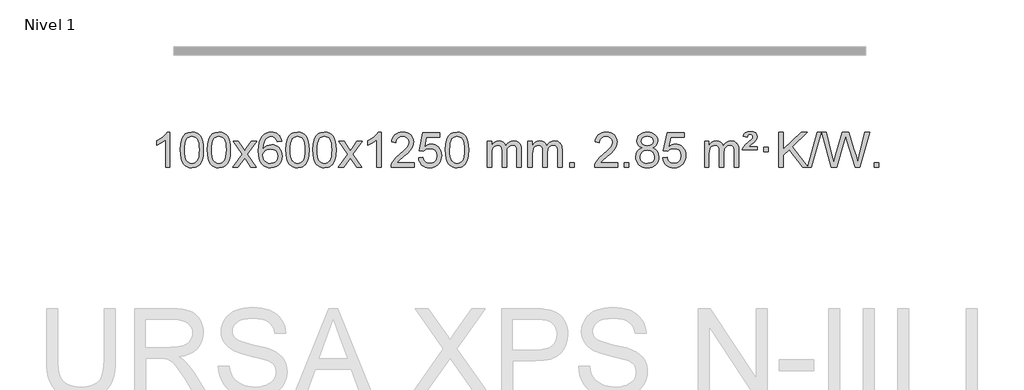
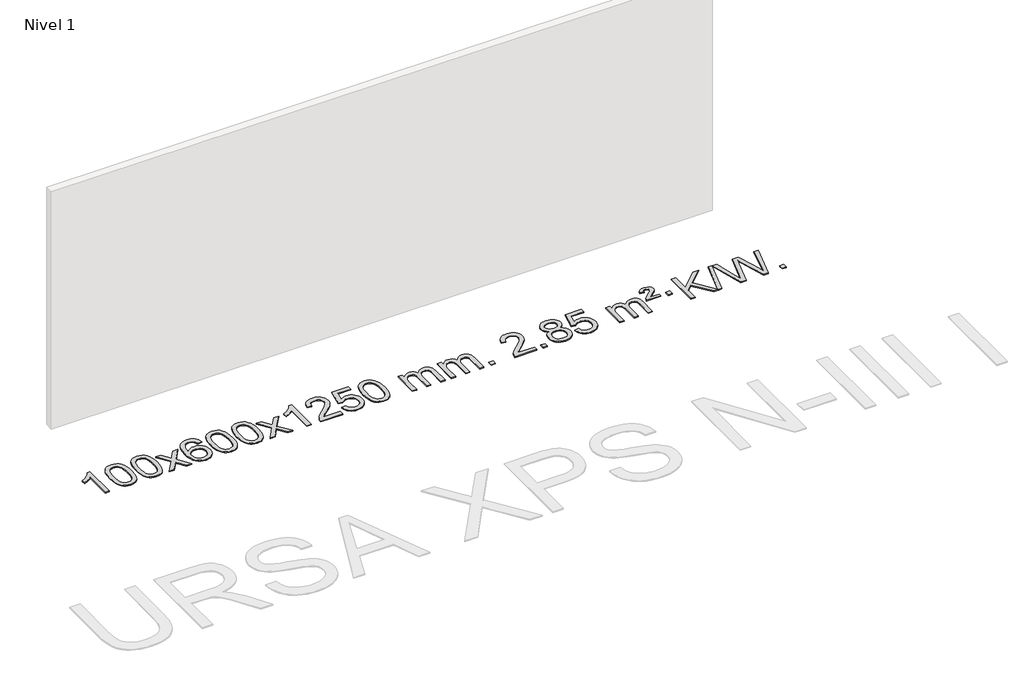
# One storey, part 2 of 6: 1 proxy.
"""IFC4 building model written with IfcOpenShell, lengths in millimetres."""

from ifc_helpers import new_model, si_unit, origin, origin_with_axes, place, context, project, spatial, polyline, outline, extrude, element, save

model = new_model("IFC4")

# Units and contexts
model_context = context("Model", 3, world=origin())
ifc_project = project(units=[si_unit("LENGTHUNIT", "METRE", prefix="MILLI")], contexts=[model_context])

# Site, building, storey
site = spatial("IfcSite", under=ifc_project)
building = spatial("IfcBuilding", under=site)
storey = spatial("IfcBuildingStorey", under=building, Name="Nivel 1", Elevation=0.0)

# Proxy
placement = place(None, origin())
element("IfcBuildingElementProxy", 1, Name="Texto de modelo 1", ObjectType="Texto de modelo 1", at=placement, inside=storey, context=model_context, shape_type="SweptSolid", body=[
    extrude(outline(polyline([(-6575.4615788, -9389.579453), (-6625.6897338, -9389.579453), (-6625.6897338, -9076.4382987), (-6646.6590076, -9093.3976587), (-6673.2691385, -9110.3324932), (-6726.146044, -9135.6918254), (-6726.146044, -9088.2105225), (-6686.6968314, -9066.7507395), (-6652.520594, -9041.219729), (-6625.5793692, -9014.0700378), (-6607.8351943, -8987.7542124), (-6575.4615788, -8987.7542124), (-6575.4615788, -9389.579453)])), origin_with_axes(), (0.0, 0.0, 1.0), 10.0),
    extrude(outline(polyline([(-6456.1697105, -9191.9041943), (-6452.4786278, -9127.5861588), (-6441.4053797, -9076.2911459), (-6423.0603309, -9037.2343407), (-6411.2022679, -9022.0009605), (-6397.5538459, -9009.6309284), (-6382.0690796, -9000.0598651), (-6364.7019837, -8993.2233914), (-6324.3208034, -8987.7542124), (-6293.3696649, -8990.991574), (-6265.6558879, -9000.7036586), (-6242.4793222, -9016.5103217), (-6225.1398175, -9038.0314184), (-6212.0432185, -9065.0830078), (-6201.5953698, -9097.4811488), (-6194.7527647, -9138.6226186), (-6192.4718963, -9191.9041943), (-6196.1261908, -9255.8543477), (-6207.0890743, -9307.0267333), (-6225.3237585, -9346.1203266), (-6237.1542303, -9361.3996922), (-6250.7934553, -9373.8341036), (-6266.2966157, -9383.4695462), (-6283.7188939, -9390.3520052), (-6324.3208034, -9395.8579724), (-6351.9855294, -9393.4667394), (-6376.5109958, -9386.2930405), (-6397.8972024, -9374.3368757), (-6416.1441494, -9357.5982449), (-6433.6553324, -9327.3399508), (-6446.1633202, -9289.6381776), (-6453.6681129, -9244.4929255), (-6456.1697105, -9191.9041943)]), holes=[polyline([(-6405.9415554, -9191.8060924), (-6404.4700274, -9235.4706195), (-6400.0554435, -9270.8148822), (-6392.6978036, -9297.8388804), (-6382.3971077, -9316.5426142), (-6369.9381708, -9329.2682656), (-6356.1058078, -9338.3580165), (-6340.9000186, -9343.8118671), (-6324.3208034, -9345.6298173), (-6307.7415881, -9343.8057357), (-6292.535799, -9338.3334911), (-6278.703436, -9329.2130833), (-6266.2444991, -9316.4445124), (-6255.9438032, -9297.7101217), (-6248.5861633, -9270.6922549), (-6244.1715794, -9235.3909118), (-6242.7000514, -9191.8060924), (-6244.1225284, -9149.2973278), (-6248.3899596, -9114.5753989), (-6255.5023448, -9087.6403055), (-6265.4596842, -9068.4920476), (-6277.7101546, -9055.1440625), (-6291.7019332, -9045.6097875), (-6307.4350198, -9039.8892225), (-6324.9094146, -9037.9823675), (-6341.4027907, -9039.6623619), (-6356.3510624, -9044.7023452), (-6369.7542298, -9053.1023175), (-6381.6122928, -9064.8622786), (-6392.2563452, -9085.708925), (-6399.8592397, -9113.8151094), (-6404.4209765, -9149.1808319), (-6405.9415554, -9191.8060924)])]), origin_with_axes(), (0.0, 0.0, 1.0), 10.0),
    extrude(outline(polyline([(-6148.5222606, -9191.9041943), (-6144.8311779, -9127.5861588), (-6133.7579299, -9076.2911459), (-6115.4128811, -9037.2343407), (-6103.5548181, -9022.0009605), (-6089.9063961, -9009.6309284), (-6074.4216298, -9000.0598651), (-6057.0545339, -8993.2233914), (-6016.6733536, -8987.7542124), (-5985.722215, -8990.991574), (-5958.0084381, -9000.7036586), (-5934.8318724, -9016.5103217), (-5917.4923677, -9038.0314184), (-5904.3957686, -9065.0830078), (-5893.94792, -9097.4811488), (-5887.1053149, -9138.6226186), (-5884.8244465, -9191.9041943), (-5888.478741, -9255.8543477), (-5899.4416244, -9307.0267333), (-5917.6763087, -9346.1203266), (-5929.5067805, -9361.3996922), (-5943.1460055, -9373.8341036), (-5958.6491659, -9383.4695462), (-5976.071444, -9390.3520052), (-6016.6733536, -9395.8579724), (-6044.3380796, -9393.4667394), (-6068.8635459, -9386.2930405), (-6090.2497526, -9374.3368757), (-6108.4966996, -9357.5982449), (-6126.0078825, -9327.3399508), (-6138.5158704, -9289.6381776), (-6146.0206631, -9244.4929255), (-6148.5222606, -9191.9041943)]), holes=[polyline([(-6098.2941056, -9191.8060924), (-6096.8225776, -9235.4706195), (-6092.4079936, -9270.8148822), (-6085.0503537, -9297.8388804), (-6074.7496579, -9316.5426142), (-6062.290721, -9329.2682656), (-6048.4583579, -9338.3580165), (-6033.2525688, -9343.8118671), (-6016.6733536, -9345.6298173), (-6000.0941383, -9343.8057357), (-5984.8883492, -9338.3334911), (-5971.0559862, -9329.2130833), (-5958.5970493, -9316.4445124), (-5948.2963534, -9297.7101217), (-5940.9387135, -9270.6922549), (-5936.5241295, -9235.3909118), (-5935.0526016, -9191.8060924), (-5936.4750786, -9149.2973278), (-5940.7425098, -9114.5753989), (-5947.854895, -9087.6403055), (-5957.8122343, -9068.4920476), (-5970.0627048, -9055.1440625), (-5984.0544833, -9045.6097875), (-5999.78757, -9039.8892225), (-6017.2619648, -9037.9823675), (-6033.7553409, -9039.6623619), (-6048.7036126, -9044.7023452), (-6062.10678, -9053.1023175), (-6073.9648429, -9064.8622786), (-6084.6088953, -9085.708925), (-6092.2117899, -9113.8151094), (-6096.7735266, -9149.1808319), (-6098.2941056, -9191.8060924)])]), origin_with_axes(), (0.0, 0.0, 1.0), 10.0),
    extrude(outline(polyline([(-5859.7103689, -9389.579453), (-5752.3869282, -9241.2494325), (-5853.4318496, -9094.4890419), (-5793.0011005, -9094.4890419), (-5744.2444734, -9165.122385), (-5721.4848406, -9198.4770192), (-5701.7663657, -9171.2047007), (-5646.2407099, -9094.4890419), (-5585.8099608, -9094.4890419), (-5691.9561791, -9241.2494325), (-5589.7340354, -9389.579453), (-5650.1647845, -9389.579453), (-5711.6746541, -9300.4048574), (-5722.9563686, -9284.1199477), (-5799.2796199, -9389.579453), (-5859.7103689, -9389.579453)])), origin_with_axes(), (0.0, 0.0, 1.0), 10.0),
    extrude(outline(polyline([(-5300.9221437, -9094.4890419), (-5351.1502988, -9100.7675613), (-5359.2437027, -9075.874213), (-5370.1820607, -9058.8780648), (-5392.9662189, -9043.2062918), (-5420.5083176, -9037.9823675), (-5443.8565616, -9041.0235253), (-5465.8313794, -9050.1469988), (-5484.7037258, -9069.3627017), (-5500.1179814, -9095.8134171), (-5510.5290419, -9133.227016), (-5514.3918028, -9185.3313693), (-5494.2441322, -9161.8237098), (-5470.0988106, -9145.2567573), (-5443.3047386, -9135.434308), (-5415.2108169, -9132.1601582), (-5391.077758, -9134.398107), (-5368.8086346, -9141.1119534), (-5348.4034466, -9152.3016975), (-5329.862194, -9167.9673391), (-5314.4540698, -9187.1769106), (-5303.4482668, -9208.9984443), (-5296.844785, -9233.4319401), (-5294.6436244, -9260.4773982), (-5298.7884282, -9296.4439945), (-5311.2228396, -9329.786366), (-5330.9167891, -9358.0642287), (-5356.840207, -9378.8372987), (-5387.815871, -9391.602804), (-5422.6665587, -9395.8579724), (-5452.6090874, -9393.0375437), (-5479.6514797, -9384.5762579), (-5503.7937357, -9370.4741147), (-5525.0358552, -9350.7311143), (-5542.3539001, -9324.5133908), (-5554.7239322, -9290.9870783), (-5562.1459515, -9250.1521768), (-5564.6199579, -9202.0086864), (-5561.8731057, -9148.0342663), (-5553.632549, -9101.9693092), (-5539.8982878, -9063.8138149), (-5520.6703222, -9033.5677835), (-5499.8298072, -9013.5243462), (-5475.6660915, -8999.2076052), (-5448.179175, -8990.6175606), (-5417.3690579, -8987.7542124), (-5394.2354118, -8989.5261773), (-5373.2967949, -8994.8420722), (-5354.5532073, -9003.7018969), (-5338.0046489, -9016.1056515), (-5324.0987094, -9031.6364031), (-5313.2829788, -9049.8772186), (-5305.5574569, -9070.8280983), (-5300.9221437, -9094.4890419)]), holes=[polyline([(-5514.3918028, -9259.6925832), (-5511.485535, -9281.9494439), (-5502.7667318, -9303.2007605), (-5489.2286743, -9321.472233), (-5471.8646442, -9334.7895612), (-5450.9076332, -9342.9197533), (-5426.5906333, -9345.6298173), (-5393.4444655, -9340.0134855), (-5379.5293291, -9332.9930708), (-5367.3861575, -9323.1644901), (-5357.5361171, -9310.9262824), (-5350.500374, -9296.6769865), (-5344.8717794, -9262.1451299), (-5350.4267976, -9228.9989621), (-5357.3705702, -9215.3781312), (-5367.0918519, -9203.725469), (-5379.2718117, -9194.3904634), (-5393.5916183, -9187.7226022), (-5428.6507725, -9182.3883133), (-5461.7478893, -9187.7226022), (-5489.4248781, -9203.725469), (-5500.3479076, -9215.2248471), (-5508.1500716, -9228.3858254), (-5512.83137, -9243.2084042), (-5514.3918028, -9259.6925832)])]), origin_with_axes(), (0.0, 0.0, 1.0), 10.0),
    extrude(outline(polyline([(-5250.6939887, -9191.9041943), (-5247.002906, -9127.5861588), (-5235.9296579, -9076.2911459), (-5217.5846091, -9037.2343407), (-5205.7265461, -9022.0009605), (-5192.0781241, -9009.6309284), (-5176.5933578, -9000.0598651), (-5159.2262619, -8993.2233914), (-5118.8450816, -8987.7542124), (-5087.8939431, -8990.991574), (-5060.1801661, -9000.7036586), (-5037.0036004, -9016.5103217), (-5019.6640957, -9038.0314184), (-5006.5674967, -9065.0830078), (-4996.119648, -9097.4811488), (-4989.2770429, -9138.6226186), (-4986.9961745, -9191.9041943), (-4990.650469, -9255.8543477), (-5001.6133525, -9307.0267333), (-5019.8480367, -9346.1203266), (-5031.6785085, -9361.3996922), (-5045.3177335, -9373.8341036), (-5060.8208939, -9383.4695462), (-5078.2431721, -9390.3520052), (-5118.8450816, -9395.8579724), (-5146.5098076, -9393.4667394), (-5171.035274, -9386.2930405), (-5192.4214806, -9374.3368757), (-5210.6684276, -9357.5982449), (-5228.1796106, -9327.3399508), (-5240.6875984, -9289.6381776), (-5248.1923911, -9244.4929255), (-5250.6939887, -9191.9041943)]), holes=[polyline([(-5200.4658336, -9191.8060924), (-5198.9943056, -9235.4706195), (-5194.5797217, -9270.8148822), (-5187.2220818, -9297.8388804), (-5176.9213859, -9316.5426142), (-5164.462449, -9329.2682656), (-5150.630086, -9338.3580165), (-5135.4242968, -9343.8118671), (-5118.8450816, -9345.6298173), (-5102.2658663, -9343.8057357), (-5087.0600772, -9338.3334911), (-5073.2277142, -9329.2130833), (-5060.7687773, -9316.4445124), (-5050.4680814, -9297.7101217), (-5043.1104415, -9270.6922549), (-5038.6958576, -9235.3909118), (-5037.2243296, -9191.8060924), (-5038.6468066, -9149.2973278), (-5042.9142378, -9114.5753989), (-5050.026623, -9087.6403055), (-5059.9839624, -9068.4920476), (-5072.2344328, -9055.1440625), (-5086.2262114, -9045.6097875), (-5101.959298, -9039.8892225), (-5119.4336928, -9037.9823675), (-5135.9270689, -9039.6623619), (-5150.8753406, -9044.7023452), (-5164.278508, -9053.1023175), (-5176.136571, -9064.8622786), (-5186.7806234, -9085.708925), (-5194.3835179, -9113.8151094), (-5198.9452547, -9149.1808319), (-5200.4658336, -9191.8060924)])]), origin_with_axes(), (0.0, 0.0, 1.0), 10.0),
    extrude(outline(polyline([(-4943.0465388, -9191.9041943), (-4939.3554561, -9127.5861588), (-4928.2822081, -9076.2911459), (-4909.9371593, -9037.2343407), (-4898.0790963, -9022.0009605), (-4884.4306743, -9009.6309284), (-4868.945908, -9000.0598651), (-4851.5788121, -8993.2233914), (-4811.1976318, -8987.7542124), (-4780.2464932, -8990.991574), (-4752.5327163, -9000.7036586), (-4729.3561506, -9016.5103217), (-4712.0166459, -9038.0314184), (-4698.9200468, -9065.0830078), (-4688.4721982, -9097.4811488), (-4681.6295931, -9138.6226186), (-4679.3487247, -9191.9041943), (-4683.0030192, -9255.8543477), (-4693.9659026, -9307.0267333), (-4712.2005869, -9346.1203266), (-4724.0310587, -9361.3996922), (-4737.6702837, -9373.8341036), (-4753.1734441, -9383.4695462), (-4770.5957222, -9390.3520052), (-4811.1976318, -9395.8579724), (-4838.8623578, -9393.4667394), (-4863.3878241, -9386.2930405), (-4884.7740308, -9374.3368757), (-4903.0209778, -9357.5982449), (-4920.5321607, -9327.3399508), (-4933.0401486, -9289.6381776), (-4940.5449413, -9244.4929255), (-4943.0465388, -9191.9041943)]), holes=[polyline([(-4892.8183838, -9191.8060924), (-4891.3468558, -9235.4706195), (-4886.9322718, -9270.8148822), (-4879.5746319, -9297.8388804), (-4869.2739361, -9316.5426142), (-4856.8149992, -9329.2682656), (-4842.9826361, -9338.3580165), (-4827.776847, -9343.8118671), (-4811.1976318, -9345.6298173), (-4794.6184165, -9343.8057357), (-4779.4126274, -9338.3334911), (-4765.5802644, -9329.2130833), (-4753.1213275, -9316.4445124), (-4742.8206316, -9297.7101217), (-4735.4629917, -9270.6922549), (-4731.0484077, -9235.3909118), (-4729.5768798, -9191.8060924), (-4730.9993568, -9149.2973278), (-4735.266788, -9114.5753989), (-4742.3791732, -9087.6403055), (-4752.3365125, -9068.4920476), (-4764.586983, -9055.1440625), (-4778.5787615, -9045.6097875), (-4794.3118482, -9039.8892225), (-4811.786243, -9037.9823675), (-4828.2796191, -9039.6623619), (-4843.2278908, -9044.7023452), (-4856.6310582, -9053.1023175), (-4868.4891211, -9064.8622786), (-4879.1331735, -9085.708925), (-4886.7360681, -9113.8151094), (-4891.2978048, -9149.1808319), (-4892.8183838, -9191.8060924)])]), origin_with_axes(), (0.0, 0.0, 1.0), 10.0),
    extrude(outline(polyline([(-4654.2346472, -9389.579453), (-4546.9112064, -9241.2494325), (-4647.9561278, -9094.4890419), (-4587.5253787, -9094.4890419), (-4538.7687516, -9165.122385), (-4516.0091188, -9198.4770192), (-4496.2906439, -9171.2047007), (-4440.7649881, -9094.4890419), (-4380.334239, -9094.4890419), (-4486.4804574, -9241.2494325), (-4384.2583136, -9389.579453), (-4444.6890627, -9389.579453), (-4506.1989323, -9300.4048574), (-4517.4806468, -9284.1199477), (-4593.8038981, -9389.579453), (-4654.2346472, -9389.579453)])), origin_with_axes(), (0.0, 0.0, 1.0), 10.0),
    extrude(outline(polyline([(-4164.5101352, -9389.579453), (-4214.7382902, -9389.579453), (-4214.7382902, -9076.4382987), (-4235.707564, -9093.3976587), (-4262.317695, -9110.3324932), (-4315.1946004, -9135.6918254), (-4315.1946004, -9088.2105225), (-4275.7453878, -9066.7507395), (-4241.5691504, -9041.219729), (-4214.6279257, -9014.0700378), (-4196.8837508, -8987.7542124), (-4164.5101352, -8987.7542124), (-4164.5101352, -9389.579453)])), origin_with_axes(), (0.0, 0.0, 1.0), 10.0),
    extrude(outline(polyline([(-3787.7989721, -9339.3512979), (-3787.7989721, -9389.579453), (-4051.4967863, -9389.579453), (-4050.3931403, -9371.8965918), (-4046.1011837, -9354.9494945), (-4033.7158232, -9327.8856424), (-4015.5915035, -9301.6311307), (-3989.37378, -9274.1503456), (-3952.7082078, -9243.4076736), (-3898.5069272, -9195.2641831), (-3865.9861588, -9159.7267824), (-3849.7257746, -9130.884834), (-3844.3056466, -9102.8277005), (-3849.4192063, -9077.6768347), (-3864.7598855, -9056.7688747), (-3888.3411214, -9042.6789943), (-3918.1763512, -9037.9823675), (-3949.5076345, -9042.5686297), (-3973.8491598, -9056.3274163), (-3989.557721, -9078.1796068), (-3994.9901118, -9107.0460807), (-4045.2182669, -9100.7675613), (-4040.8987191, -9074.838012), (-4033.0413728, -9052.1826125), (-4021.646228, -9032.8013627), (-4006.7132847, -9016.6942627), (-3988.5858994, -9004.0329907), (-3967.6074286, -8994.989225), (-3943.7778724, -8989.5629655), (-3917.0972307, -8987.7542124), (-3890.1774657, -8989.7653006), (-3866.2191508, -8995.7985654), (-3845.2222859, -9005.8540066), (-3827.1868711, -9019.9316242), (-3812.7015175, -9036.9890861), (-3802.3548364, -9055.9840598), (-3796.1468277, -9076.9165453), (-3794.0774915, -9099.7865427), (-3796.3093089, -9123.8092369), (-3803.0047612, -9147.4149983), (-3814.8873497, -9171.4254299), (-3832.6805755, -9196.6621347), (-3861.0442774, -9226.7916701), (-3904.6382938, -9265.4805933), (-3962.4202925, -9313.795762), (-3985.0818234, -9339.3512979), (-3787.7989721, -9339.3512979)])), origin_with_axes(), (0.0, 0.0, 1.0), 10.0),
    extrude(outline(polyline([(-3737.570817, -9282.8446235), (-3687.342662, -9276.5661041), (-3678.1210866, -9306.7201649), (-3662.0323807, -9328.3148381), (-3639.1501206, -9341.3010725), (-3609.5478827, -9345.6298173), (-3590.418019, -9344.1245668), (-3573.5444981, -9339.6088153), (-3558.9273202, -9332.0825628), (-3546.5664851, -9321.5458094), (-3536.7379045, -9308.519721), (-3529.7174898, -9293.5254641), (-3524.101158, -9257.6324441), (-3529.3618705, -9223.8363514), (-3535.9377612, -9209.9181493), (-3545.1440081, -9197.9865099), (-3557.0112681, -9188.4154467), (-3571.5701981, -9181.5789729), (-3608.7630678, -9176.1097939), (-3633.1291186, -9178.2925604), (-3652.8598563, -9184.8408599), (-3668.6174684, -9194.8717757), (-3681.0641426, -9207.5023908), (-3731.2922977, -9201.2238715), (-3687.342662, -8994.0327318), (-3492.708561, -8994.0327318), (-3492.708561, -9044.2608869), (-3646.7284897, -9044.2608869), (-3668.2127982, -9154.919791), (-3650.4870174, -9142.2155994), (-3632.332041, -9133.1411769), (-3613.7478688, -9127.6965234), (-3594.734501, -9125.8816388), (-3570.273414, -9128.1318504), (-3547.8050212, -9134.882485), (-3527.3293225, -9146.1335427), (-3508.8463179, -9161.8850234), (-3493.5454926, -9181.1743027), (-3482.6163316, -9203.038756), (-3476.0588351, -9227.4783832), (-3473.8730029, -9254.4931844), (-3475.8411716, -9280.5147042), (-3481.7456776, -9304.7213394), (-3491.586521, -9327.1130902), (-3505.3637017, -9347.6899565), (-3526.2348735, -9368.7634634), (-3550.5886616, -9383.8159684), (-3578.4250659, -9392.8474714), (-3609.7440864, -9395.8579724), (-3635.6644387, -9393.9235262), (-3659.077062, -9388.1201877), (-3679.9819564, -9378.447957), (-3698.3791218, -9364.9068338), (-3713.6860785, -9348.1712688), (-3725.3203466, -9328.915712), (-3733.2819261, -9307.1401636), (-3737.570817, -9282.8446235)])), origin_with_axes(), (0.0, 0.0, 1.0), 10.0),
    extrude(outline(polyline([(-3429.9233672, -9191.9041943), (-3426.2322845, -9127.5861588), (-3415.1590365, -9076.2911459), (-3396.8139876, -9037.2343407), (-3384.9559247, -9022.0009605), (-3371.3075026, -9009.6309284), (-3355.8227363, -9000.0598651), (-3338.4556405, -8993.2233914), (-3298.0744601, -8987.7542124), (-3267.1233216, -8990.991574), (-3239.4095446, -9000.7036586), (-3216.2329789, -9016.5103217), (-3198.8934742, -9038.0314184), (-3185.7968752, -9065.0830078), (-3175.3490265, -9097.4811488), (-3168.5064214, -9138.6226186), (-3166.2255531, -9191.9041943), (-3169.8798475, -9255.8543477), (-3180.842731, -9307.0267333), (-3199.0774152, -9346.1203266), (-3210.9078871, -9361.3996922), (-3224.547112, -9373.8341036), (-3240.0502724, -9383.4695462), (-3257.4725506, -9390.3520052), (-3298.0744601, -9395.8579724), (-3325.7391862, -9393.4667394), (-3350.2646525, -9386.2930405), (-3371.6508592, -9374.3368757), (-3389.8978061, -9357.5982449), (-3407.4089891, -9327.3399508), (-3419.9169769, -9289.6381776), (-3427.4217696, -9244.4929255), (-3429.9233672, -9191.9041943)]), holes=[polyline([(-3379.6952121, -9191.8060924), (-3378.2236842, -9235.4706195), (-3373.8091002, -9270.8148822), (-3366.4514603, -9297.8388804), (-3356.1507644, -9316.5426142), (-3343.6918275, -9329.2682656), (-3329.8594645, -9338.3580165), (-3314.6536754, -9343.8118671), (-3298.0744601, -9345.6298173), (-3281.4952449, -9343.8057357), (-3266.2894558, -9338.3334911), (-3252.4570927, -9329.2130833), (-3239.9981558, -9316.4445124), (-3229.69746, -9297.7101217), (-3222.3398201, -9270.6922549), (-3217.9252361, -9235.3909118), (-3216.4537081, -9191.8060924), (-3217.8761852, -9149.2973278), (-3222.1436163, -9114.5753989), (-3229.2560016, -9087.6403055), (-3239.2133409, -9068.4920476), (-3251.4638113, -9055.1440625), (-3265.4555899, -9045.6097875), (-3281.1886766, -9039.8892225), (-3298.6630713, -9037.9823675), (-3315.1564474, -9039.6623619), (-3330.1047192, -9044.7023452), (-3343.5078865, -9053.1023175), (-3355.3659495, -9064.8622786), (-3366.0100019, -9085.708925), (-3373.6128965, -9113.8151094), (-3378.1746332, -9149.1808319), (-3379.6952121, -9191.8060924)])]), origin_with_axes(), (0.0, 0.0, 1.0), 10.0),
    extrude(outline(polyline([(-2952.755894, -9389.579453), (-2952.755894, -9094.4890419), (-2902.5277389, -9094.4890419), (-2902.5277389, -9143.0494653), (-2887.4200517, -9120.7435537), (-2867.9958823, -9103.2691589), (-2844.9174185, -9091.9751816), (-2818.8468478, -9088.2105225), (-2790.9123416, -9092.048758), (-2768.5205908, -9103.5634645), (-2751.7942228, -9121.9943524), (-2740.8558648, -9146.5811324), (-2722.5476041, -9121.0439906), (-2701.6641696, -9102.803175), (-2678.205561, -9091.8586857), (-2652.1717785, -9088.2105225), (-2632.0639617, -9089.7280358), (-2614.414823, -9094.2805755), (-2599.2243623, -9101.8681416), (-2586.4925796, -9112.4907342), (-2576.4279413, -9126.2709806), (-2569.238914, -9143.3315082), (-2564.9254976, -9163.6723168), (-2563.4876922, -9187.2934066), (-2563.4876922, -9389.579453), (-2613.7158472, -9389.579453), (-2613.7158472, -9208.875817), (-2614.8808069, -9183.8230531), (-2618.3756858, -9166.9372695), (-2624.9239854, -9155.3735121), (-2635.2492067, -9146.2868268), (-2648.5297467, -9140.4007149), (-2663.9440023, -9138.4386776), (-2691.1550072, -9143.4663982), (-2713.3382915, -9158.54956), (-2721.9436645, -9170.1194488), (-2728.0903595, -9184.7182326), (-2733.0077155, -9223.0024856), (-2733.0077155, -9389.579453), (-2783.2358706, -9389.579453), (-2783.2358706, -9203.2840106), (-2786.1421384, -9174.8835206), (-2794.8609417, -9154.6254854), (-2810.2016209, -9142.4853796), (-2832.9735164, -9138.4386776), (-2852.3241093, -9141.1364789), (-2870.1541233, -9149.2298828), (-2884.8694032, -9162.5226856), (-2894.8757934, -9180.8186835), (-2900.6147525, -9206.2025411), (-2902.5277389, -9240.7589232), (-2902.5277389, -9389.579453), (-2952.755894, -9389.579453)])), origin_with_axes(), (0.0, 0.0, 1.0), 10.0),
    extrude(outline(polyline([(-2488.1454596, -9389.579453), (-2488.1454596, -9094.4890419), (-2437.9173045, -9094.4890419), (-2437.9173045, -9143.0494653), (-2422.8096172, -9120.7435537), (-2403.3854479, -9103.2691589), (-2380.306984, -9091.9751816), (-2354.2364133, -9088.2105225), (-2326.3019071, -9092.048758), (-2303.9101564, -9103.5634645), (-2287.1837883, -9121.9943524), (-2276.2454303, -9146.5811324), (-2257.9371697, -9121.0439906), (-2237.0537351, -9102.803175), (-2213.5951266, -9091.8586857), (-2187.561344, -9088.2105225), (-2167.4535273, -9089.7280358), (-2149.8043886, -9094.2805755), (-2134.6139279, -9101.8681416), (-2121.8821452, -9112.4907342), (-2111.8175069, -9126.2709806), (-2104.6284796, -9143.3315082), (-2100.3150632, -9163.6723168), (-2098.8772577, -9187.2934066), (-2098.8772577, -9389.579453), (-2149.1054128, -9389.579453), (-2149.1054128, -9208.875817), (-2150.2703724, -9183.8230531), (-2153.7652514, -9166.9372695), (-2160.3135509, -9155.3735121), (-2170.6387722, -9146.2868268), (-2183.9193123, -9140.4007149), (-2199.3335679, -9138.4386776), (-2226.5445728, -9143.4663982), (-2248.7278571, -9158.54956), (-2257.3332301, -9170.1194488), (-2263.4799251, -9184.7182326), (-2268.3972811, -9223.0024856), (-2268.3972811, -9389.579453), (-2318.6254362, -9389.579453), (-2318.6254362, -9203.2840106), (-2321.5317039, -9174.8835206), (-2330.2505072, -9154.6254854), (-2345.5911864, -9142.4853796), (-2368.3630819, -9138.4386776), (-2387.7136749, -9141.1364789), (-2405.5436889, -9149.2298828), (-2420.2589687, -9162.5226856), (-2430.265359, -9180.8186835), (-2436.0043181, -9206.2025411), (-2437.9173045, -9240.7589232), (-2437.9173045, -9389.579453), (-2488.1454596, -9389.579453)])), origin_with_axes(), (0.0, 0.0, 1.0), 10.0),
    extrude(outline(polyline([(-2010.9779863, -9389.579453), (-2010.9779863, -9339.3512979), (-1960.7498313, -9339.3512979), (-1960.7498313, -9389.579453), (-2010.9779863, -9389.579453)])), origin_with_axes(), (0.0, 0.0, 1.0), 10.0),
    extrude(outline(polyline([(-1464.7467999, -9339.3512979), (-1464.7467999, -9389.579453), (-1728.444614, -9389.579453), (-1727.3409681, -9371.8965918), (-1723.0490115, -9354.9494945), (-1710.6636509, -9327.8856424), (-1692.5393313, -9301.6311307), (-1666.3216078, -9274.1503456), (-1629.6560356, -9243.4076736), (-1575.454755, -9195.2641831), (-1542.9339866, -9159.7267824), (-1526.6736024, -9130.884834), (-1521.2534744, -9102.8277005), (-1526.3670341, -9077.6768347), (-1541.7077133, -9056.7688747), (-1565.2889492, -9042.6789943), (-1595.124179, -9037.9823675), (-1626.4554623, -9042.5686297), (-1650.7969876, -9056.3274163), (-1666.5055488, -9078.1796068), (-1671.9379396, -9107.0460807), (-1722.1660947, -9100.7675613), (-1717.8465469, -9074.838012), (-1709.9892006, -9052.1826125), (-1698.5940558, -9032.8013627), (-1683.6611125, -9016.6942627), (-1665.5337272, -9004.0329907), (-1644.5552564, -8994.989225), (-1620.7257002, -8989.5629655), (-1594.0450585, -8987.7542124), (-1567.1252935, -8989.7653006), (-1543.1669785, -8995.7985654), (-1522.1701137, -9005.8540066), (-1504.1346989, -9019.9316242), (-1489.6493453, -9036.9890861), (-1479.3026642, -9055.9840598), (-1473.0946555, -9076.9165453), (-1471.0253193, -9099.7865427), (-1473.2571367, -9123.8092369), (-1479.952589, -9147.4149983), (-1491.8351775, -9171.4254299), (-1509.6284033, -9196.6621347), (-1537.9921051, -9226.7916701), (-1581.5861216, -9265.4805933), (-1639.3681203, -9313.795762), (-1662.0296512, -9339.3512979), (-1464.7467999, -9339.3512979)])), origin_with_axes(), (0.0, 0.0, 1.0), 10.0),
    extrude(outline(polyline([(-1389.4045673, -9389.579453), (-1389.4045673, -9339.3512979), (-1339.1764122, -9339.3512979), (-1339.1764122, -9389.579453), (-1389.4045673, -9389.579453)])), origin_with_axes(), (0.0, 0.0, 1.0), 10.0),
    extrude(outline(polyline([(-1184.3716686, -9168.2616447), (-1211.2638425, -9155.0178929), (-1230.1361888, -9137.0652515), (-1241.2830133, -9114.7716026), (-1244.9986215, -9088.5048281), (-1242.9752705, -9068.0199324), (-1236.9052176, -9049.2395565), (-1226.7884627, -9032.1637006), (-1212.6250059, -9016.7923645), (-1195.0954288, -9004.088173), (-1174.8803132, -8995.0137504), (-1151.979659, -8989.5690969), (-1126.3934662, -8987.7542124), (-1100.6846461, -8989.6120165), (-1077.6123136, -8995.1854287), (-1057.1764688, -9004.4744491), (-1039.3771116, -9017.4790776), (-1024.9561374, -9033.1508506), (-1014.6554415, -9050.4413044), (-1008.475024, -9069.3504389), (-1006.4148848, -9089.8782543), (-1010.0814421, -9115.2989001), (-1021.0811137, -9137.2124043), (-1039.5365271, -9155.0546811), (-1065.5703097, -9168.2616447), (-1034.6559593, -9184.1909351), (-1012.153844, -9207.6495436), (-998.4318456, -9237.5092989), (-993.8578461, -9272.6420295), (-996.1264517, -9297.6947933), (-1002.9322686, -9320.6628926), (-1014.2752968, -9341.5463272), (-1030.1555363, -9360.3450971), (-1049.7391211, -9375.88198), (-1072.1921856, -9386.9797536), (-1097.5147296, -9393.6384177), (-1125.7067531, -9395.8579724), (-1153.8987767, -9393.6292206), (-1179.2213207, -9386.9429654), (-1201.6743852, -9375.7992066), (-1221.25797, -9360.1979443), (-1237.1382095, -9341.26735), (-1248.4812377, -9320.135595), (-1255.2870546, -9296.8026795), (-1257.5556602, -9271.2686033), (-1252.7977197, -9234.7747094), (-1238.5238983, -9204.7555386), (-1215.46996, -9182.2411605), (-1184.3716686, -9168.2616447)]), holes=[polyline([(-1194.7704664, -9089.9763561), (-1190.3190942, -9111.902123), (-1176.9649778, -9129.413306), (-1155.1005246, -9140.8912243), (-1125.118142, -9144.717197), (-1095.8347351, -9140.9157497), (-1074.3013757, -9129.5114079), (-1061.0576239, -9112.5888361), (-1056.6430399, -9092.232699), (-1061.2047767, -9071.1040098), (-1074.8899869, -9053.629615), (-1096.7176519, -9041.8941794), (-1125.7067531, -9037.9823675), (-1154.8797954, -9041.8083402), (-1176.6706722, -9053.2862585), (-1190.2455178, -9070.1107284), (-1194.7704664, -9089.9763561)]), polyline([(-1207.3275051, -9269.5027698), (-1205.2305778, -9288.7184726), (-1198.9397957, -9307.3210389), (-1187.3269873, -9323.5446349), (-1169.2639814, -9335.623427), (-1147.6325201, -9343.1282197), (-1125.3143457, -9345.6298173), (-1091.1258456, -9340.3691048), (-1077.2321689, -9333.7932141), (-1065.4722078, -9324.5869672), (-1049.4325528, -9300.6869002), (-1044.0860012, -9271.0723996), (-1049.6042311, -9240.9551269), (-1066.1589209, -9216.5277625), (-1078.237713, -9207.0854579), (-1092.4011699, -9200.3409547), (-1126.9820774, -9194.9453521), (-1160.6923309, -9200.2673783), (-1174.4296577, -9206.919911), (-1186.0884513, -9216.2334569), (-1202.0177417, -9240.1948375), (-1207.3275051, -9269.5027698)])]), origin_with_axes(), (0.0, 0.0, 1.0), 10.0),
    extrude(outline(polyline([(-949.9082104, -9282.8446235), (-899.6800553, -9276.5661041), (-890.45848, -9306.7201649), (-874.369774, -9328.3148381), (-851.4875139, -9341.3010725), (-821.8852761, -9345.6298173), (-802.7554123, -9344.1245668), (-785.8818915, -9339.6088153), (-771.2647135, -9332.0825628), (-758.9038785, -9321.5458094), (-749.0752979, -9308.519721), (-742.0548831, -9293.5254641), (-736.4385513, -9257.6324441), (-741.6992639, -9223.8363514), (-748.2751545, -9209.9181493), (-757.4814014, -9197.9865099), (-769.3486615, -9188.4154467), (-783.9075914, -9181.5789729), (-821.1004611, -9176.1097939), (-845.466512, -9178.2925604), (-865.1972496, -9184.8408599), (-880.9548618, -9194.8717757), (-893.4015359, -9207.5023908), (-943.629691, -9201.2238715), (-899.6800553, -8994.0327318), (-705.0459544, -8994.0327318), (-705.0459544, -9044.2608869), (-859.065883, -9044.2608869), (-880.5501916, -9154.919791), (-862.8244108, -9142.2155994), (-844.6694343, -9133.1411769), (-826.0852622, -9127.6965234), (-807.0718944, -9125.8816388), (-782.6108074, -9128.1318504), (-760.1424145, -9134.882485), (-739.6667158, -9146.1335427), (-721.1837113, -9161.8850234), (-705.8828859, -9181.1743027), (-694.953725, -9203.038756), (-688.3962284, -9227.4783832), (-686.2103962, -9254.4931844), (-688.1785649, -9280.5147042), (-694.0830709, -9304.7213394), (-703.9239143, -9327.1130902), (-717.701095, -9347.6899565), (-738.5722669, -9368.7634634), (-762.926055, -9383.8159684), (-790.7624593, -9392.8474714), (-822.0814798, -9395.8579724), (-848.001832, -9393.9235262), (-871.4144553, -9388.1201877), (-892.3193497, -9378.447957), (-910.7165152, -9364.9068338), (-926.0234719, -9348.1712688), (-937.6577399, -9328.915712), (-945.6193195, -9307.1401636), (-949.9082104, -9282.8446235)])), origin_with_axes(), (0.0, 0.0, 1.0), 10.0),
    extrude(outline(polyline([(-472.7407372, -9389.579453), (-472.7407372, -9094.4890419), (-422.5125821, -9094.4890419), (-422.5125821, -9143.0494653), (-407.4048948, -9120.7435537), (-387.9807255, -9103.2691589), (-364.9022617, -9091.9751816), (-338.8316909, -9088.2105225), (-310.8971848, -9092.048758), (-288.505434, -9103.5634645), (-271.7790659, -9121.9943524), (-260.840708, -9146.5811324), (-242.5324473, -9121.0439906), (-221.6490127, -9102.803175), (-198.1904042, -9091.8586857), (-172.1566217, -9088.2105225), (-152.0488049, -9089.7280358), (-134.3996662, -9094.2805755), (-119.2092055, -9101.8681416), (-106.4774228, -9112.4907342), (-96.4127845, -9126.2709806), (-89.2237572, -9143.3315082), (-84.9103408, -9163.6723168), (-83.4725353, -9187.2934066), (-83.4725353, -9389.579453), (-133.7006904, -9389.579453), (-133.7006904, -9208.875817), (-134.8656501, -9183.8230531), (-138.360529, -9166.9372695), (-144.9088285, -9155.3735121), (-155.2340499, -9146.2868268), (-168.5145899, -9140.4007149), (-183.9288455, -9138.4386776), (-211.1398504, -9143.4663982), (-233.3231347, -9158.54956), (-241.9285077, -9170.1194488), (-248.0752027, -9184.7182326), (-252.9925587, -9223.0024856), (-252.9925587, -9389.579453), (-303.2207138, -9389.579453), (-303.2207138, -9203.2840106), (-306.1269816, -9174.8835206), (-314.8457848, -9154.6254854), (-330.186464, -9142.4853796), (-352.9583595, -9138.4386776), (-372.3089525, -9141.1364789), (-390.1389665, -9149.2298828), (-404.8542463, -9162.5226856), (-414.8606366, -9180.8186835), (-420.5995957, -9206.2025411), (-422.5125821, -9240.7589232), (-422.5125821, -9389.579453), (-472.7407372, -9389.579453)])), origin_with_axes(), (0.0, 0.0, 1.0), 10.0),
    extrude(outline(polyline([(-39.5228997, -9188.6668327), (-35.6969269, -9172.8479069), (-27.3582683, -9156.9799302), (-5.8494344, -9131.8413272), (26.1072483, -9104.1030247), (70.2530877, -9066.726214), (77.3899984, -9055.1992448), (79.7689686, -9043.3779701), (77.8805077, -9031.2869152), (72.215125, -9021.5012541), (62.8463969, -9015.026531), (49.8478997, -9012.8682899), (37.4134883, -9014.4869707), (28.5597949, -9019.343013), (22.1341227, -9028.8098431), (16.9837748, -9044.2608869), (-33.2443803, -9037.9823675), (-22.4041241, -9012.7701881), (-5.775858, -8995.2099542), (17.9893189, -8984.9092583), (50.2403072, -8981.475693), (86.0229626, -8985.6082341), (110.7691581, -8998.0058573), (125.1901323, -9016.3386434), (129.9971237, -9038.2766731), (125.9013708, -9061.1834586), (113.6141122, -9082.8149199), (93.0862969, -9102.6314968), (56.6169284, -9130.6886303), (31.0123416, -9157.2742358), (129.9971237, -9157.2742358), (129.9971237, -9188.6668327), (-39.5228997, -9188.6668327)])), origin_with_axes(), (0.0, 0.0, 1.0), 10.0),
    extrude(outline(polyline([(205.3393563, -9213.7809102), (205.3393563, -9163.5527552), (255.5675114, -9163.5527552), (255.5675114, -9213.7809102), (205.3393563, -9213.7809102)])), origin_with_axes(), (0.0, 0.0, 1.0), 10.0),
    extrude(outline(polyline([(646.2091394, -9389.579453), (492.7778219, -9186.9009991), (425.0875348, -9251.4520265), (425.0875348, -9389.579453), (374.8593797, -9389.579453), (374.8593797, -8987.7542124), (425.0875348, -8987.7542124), (425.0875348, -9184.4484525), (631.1014521, -8987.7542124), (701.3423877, -8987.7542124), (528.388799, -9152.9577537), (703.0424089, -9383.5349332), (814.3557366, -8987.7542124), (859.6787984, -8987.7542124), (746.6654495, -9389.579453), (707.6209071, -9389.579453), (701.3423877, -9389.579453), (646.2091394, -9389.579453)])), origin_with_axes(), (0.0, 0.0, 1.0), 10.0),
    extrude(outline(polyline([(974.1636753, -9389.579453), (864.5838917, -8987.7542124), (916.3816766, -8987.7542124), (979.9516854, -9251.844434), (999.5720585, -9333.3670841), (1020.5658576, -9261.2622131), (1100.2245723, -8987.7542124), (1174.8800919, -8987.7542124), (1232.7601925, -9186.0180823), (1257.5554389, -9259.5944814), (1275.8269114, -9333.3670841), (1294.8586732, -9254.1988788), (1359.0172932, -8987.7542124), (1410.8150781, -8987.7542124), (1301.1371926, -9389.579453), (1247.4754723, -9389.579453), (1151.1394405, -9079.5775584), (1137.6994849, -9036.3146358), (1122.5917976, -9088.4067263), (1034.7906281, -9389.579453), (974.1636753, -9389.579453)])), origin_with_axes(), (0.0, 0.0, 1.0), 10.0),
    extrude(outline(polyline([(1467.3217526, -9389.579453), (1467.3217526, -9339.3512979), (1517.5499077, -9339.3512979), (1517.5499077, -9389.579453), (1467.3217526, -9389.579453)])), origin_with_axes(), (0.0, 0.0, 1.0), 10.0),
])

save(model, "model.ifc")
